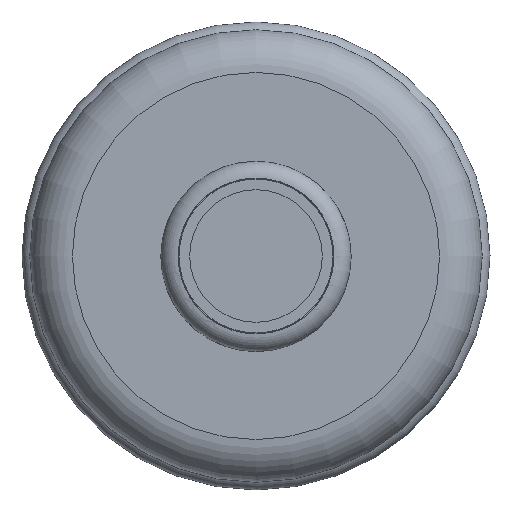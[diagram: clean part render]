
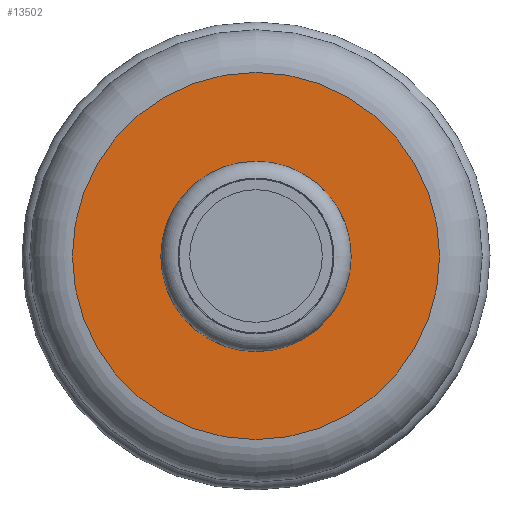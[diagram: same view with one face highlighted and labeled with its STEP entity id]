
A CAD part, front view. The second image highlights one B-rep face of the part: STEP entity #13502.
In plain terms, the highlighted planar face has unit normal (0, -1, 0).
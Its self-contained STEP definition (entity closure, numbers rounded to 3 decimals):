
#3851=FACE_BOUND('',#4674,.T.);
#3926=FACE_OUTER_BOUND('',#4673,.T.);
#4673=EDGE_LOOP('',(#8910));
#4674=EDGE_LOOP('',(#8911));
#5488=CIRCLE('',#14254,31.);
#5489=CIRCLE('',#14255,16.075);
#5505=VERTEX_POINT('',#17472);
#5506=VERTEX_POINT('',#17474);
#6870=EDGE_CURVE('',#5505,#5505,#5488,.T.);
#6871=EDGE_CURVE('',#5506,#5506,#5489,.T.);
#8910=ORIENTED_EDGE('',*,*,#6870,.T.);
#8911=ORIENTED_EDGE('',*,*,#6871,.T.);
#12988=PLANE('',#14253);
#13502=ADVANCED_FACE('',(#3926,#3851),#12988,.T.);
#14253=AXIS2_PLACEMENT_3D('',#17471,#14804,#14805);
#14254=AXIS2_PLACEMENT_3D('',#17473,#14806,#14807);
#14255=AXIS2_PLACEMENT_3D('',#17475,#14808,#14809);
#14804=DIRECTION('center_axis',(0.,-1.,0.));
#14805=DIRECTION('ref_axis',(0.,0.,-1.));
#14806=DIRECTION('center_axis',(0.,-1.,0.));
#14807=DIRECTION('ref_axis',(-1.,0.,0.));
#14808=DIRECTION('center_axis',(0.,1.,0.));
#14809=DIRECTION('ref_axis',(0.,0.,1.));
#17471=CARTESIAN_POINT('Origin',(-21.525,-13.803,0.));
#17472=CARTESIAN_POINT('',(-31.,-13.803,0.));
#17473=CARTESIAN_POINT('Origin',(0.,-13.803,
0.));
#17474=CARTESIAN_POINT('',(0.,-13.803,16.));
#17475=CARTESIAN_POINT('Origin',(0.,-13.803,
-0.075));
